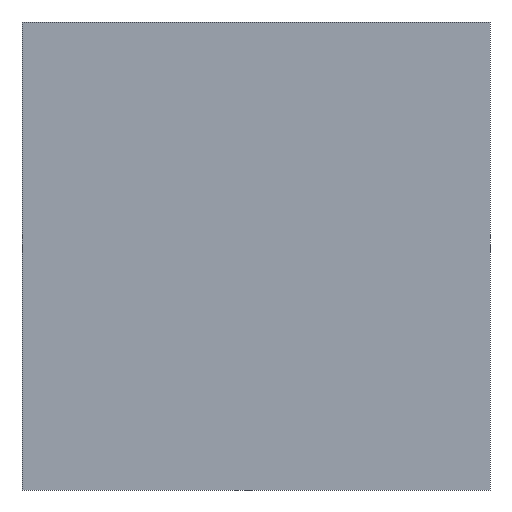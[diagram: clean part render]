
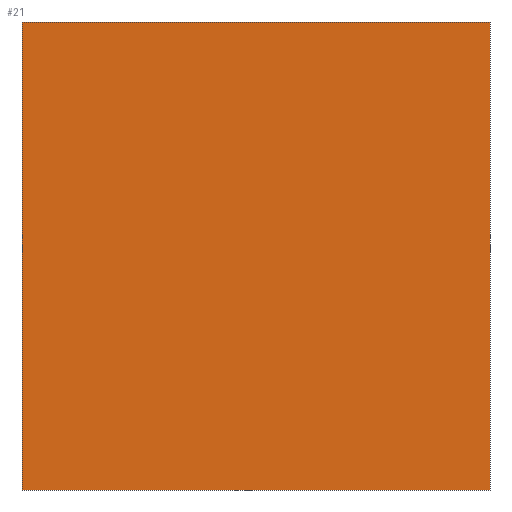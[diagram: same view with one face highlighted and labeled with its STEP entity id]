
A CAD part, front view. The second image highlights one B-rep face of the part: STEP entity #21.
In plain terms, the highlighted planar face has unit normal (0, -1, 0).
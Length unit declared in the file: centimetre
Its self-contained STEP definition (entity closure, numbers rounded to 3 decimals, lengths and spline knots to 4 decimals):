
#14 = PLANE ( 'NONE',  #438 ) ;
#21 = ADVANCED_FACE ( 'NONE', ( #114 ), #14, .F. ) ;
#36 = LINE ( 'NONE', #72, #433 ) ;
#39 = DIRECTION ( 'NONE',  ( 1., 0., 0. ) ) ;
#47 = EDGE_LOOP ( 'NONE', ( #505, #371, #282, #367 ) ) ;
#54 = CARTESIAN_POINT ( 'NONE',  ( 0., 0., 0. ) ) ;
#72 = CARTESIAN_POINT ( 'NONE',  ( 0., 0., 1000. ) ) ;
#87 = VECTOR ( 'NONE', #154, 100. ) ;
#88 = EDGE_CURVE ( 'NONE', #244, #291, #234, .T. ) ;
#114 = FACE_OUTER_BOUND ( 'NONE', #47, .T. ) ;
#141 = LINE ( 'NONE', #297, #182 ) ;
#145 = CARTESIAN_POINT ( 'NONE',  ( 1000., 0., 1000. ) ) ;
#148 = EDGE_CURVE ( 'NONE', #244, #415, #36, .T. ) ;
#154 = DIRECTION ( 'NONE',  ( 0., 0., -1. ) ) ;
#165 = CARTESIAN_POINT ( 'NONE',  ( 0., 0., 1000. ) ) ;
#182 = VECTOR ( 'NONE', #336, 100. ) ;
#183 = CARTESIAN_POINT ( 'NONE',  ( 0., 0., 1000. ) ) ;
#233 = CARTESIAN_POINT ( 'NONE',  ( 1000., 0., 0. ) ) ;
#234 = LINE ( 'NONE', #395, #307 ) ;
#244 = VERTEX_POINT ( 'NONE', #183 ) ;
#249 = VERTEX_POINT ( 'NONE', #233 ) ;
#265 = EDGE_CURVE ( 'NONE', #291, #249, #348, .T. ) ;
#272 = DIRECTION ( 'NONE',  ( 0., 1., 0. ) ) ;
#282 = ORIENTED_EDGE ( 'NONE', *, *, #88, .F. ) ;
#291 = VERTEX_POINT ( 'NONE', #342 ) ;
#297 = CARTESIAN_POINT ( 'NONE',  ( 0., 0., 0. ) ) ;
#307 = VECTOR ( 'NONE', #39, 100. ) ;
#336 = DIRECTION ( 'NONE',  ( 1., 0., 0. ) ) ;
#342 = CARTESIAN_POINT ( 'NONE',  ( 1000., 0., 1000. ) ) ;
#348 = LINE ( 'NONE', #145, #87 ) ;
#367 = ORIENTED_EDGE ( 'NONE', *, *, #148, .T. ) ;
#371 = ORIENTED_EDGE ( 'NONE', *, *, #265, .F. ) ;
#395 = CARTESIAN_POINT ( 'NONE',  ( 0., 0., 1000. ) ) ;
#402 = DIRECTION ( 'NONE',  ( 0., 0., -1. ) ) ;
#415 = VERTEX_POINT ( 'NONE', #54 ) ;
#432 = EDGE_CURVE ( 'NONE', #415, #249, #141, .T. ) ;
#433 = VECTOR ( 'NONE', #402, 100. ) ;
#438 = AXIS2_PLACEMENT_3D ( 'NONE', #165, #272, #443 ) ;
#443 = DIRECTION ( 'NONE',  ( 0., 0., 1. ) ) ;
#505 = ORIENTED_EDGE ( 'NONE', *, *, #432, .T. ) ;
